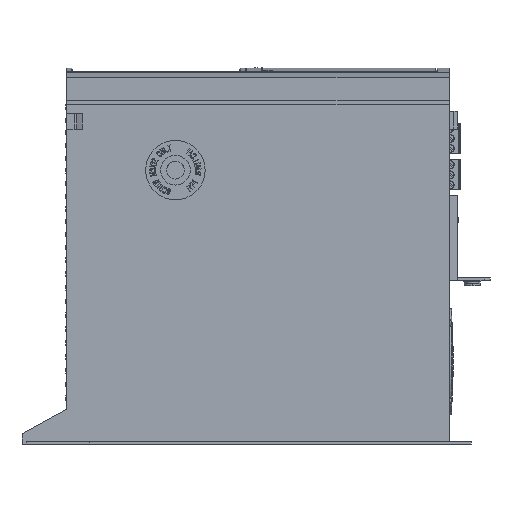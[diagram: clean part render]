
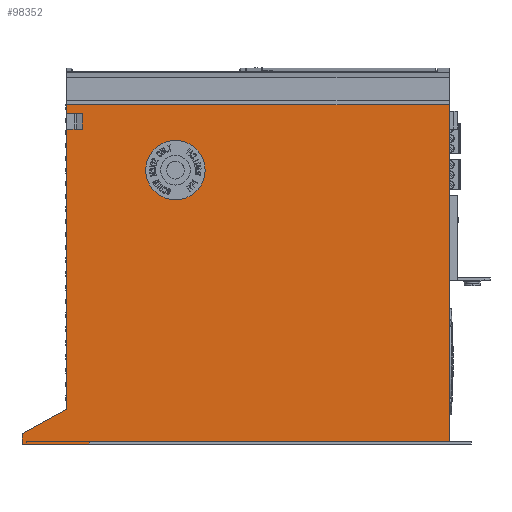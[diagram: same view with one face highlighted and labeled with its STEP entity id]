
A CAD part, left-side view. The second image highlights one B-rep face of the part: STEP entity #98352.
In plain terms, the highlighted planar face has unit normal (-1, 0, 0).
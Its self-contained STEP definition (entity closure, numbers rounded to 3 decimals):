
#49449=DIRECTION('',(0.,0.,1.));
#49450=VECTOR('',#49449,4.5);
#49451=CARTESIAN_POINT('',(-52.5,0.,-6.1));
#49452=LINE('',#49451,#49450);
#49477=DIRECTION('',(0.,0.,1.));
#49478=VECTOR('',#49477,141.5);
#49479=CARTESIAN_POINT('',(-52.5,0.,-155.6));
#49480=LINE('',#49479,#49478);
#51818=DIRECTION('',(0.,0.,1.));
#51819=VECTOR('',#51818,170.);
#51820=CARTESIAN_POINT('',(-52.5,-193.,-171.6));
#51821=LINE('',#51820,#51819);
#52210=CARTESIAN_POINT('',(-52.5,-54.9,-34.7));
#52211=DIRECTION('',(-1.,0.,0.));
#52212=DIRECTION('',(0.,-1.,0.));
#52213=AXIS2_PLACEMENT_3D('',#52210,#52211,#52212);
#52218=CARTESIAN_POINT('',(-52.5,-54.9,-34.7));
#52219=DIRECTION('',(-1.,0.,0.));
#52220=DIRECTION('',(0.,1.,0.));
#52221=AXIS2_PLACEMENT_3D('',#52218,#52219,#52220);
#52258=DIRECTION('',(0.,1.,0.));
#52259=VECTOR('',#52258,193.);
#52260=CARTESIAN_POINT('',(-52.5,-193.,-1.6));
#52261=LINE('',#52260,#52259);
#52265=DIRECTION('',(0.,0.,1.));
#52266=VECTOR('',#52265,1.5);
#52267=CARTESIAN_POINT('',(-52.5,-11.5,-173.1));
#52268=LINE('',#52267,#52266);
#52272=DIRECTION('',(0.,1.,0.));
#52273=VECTOR('',#52272,34.);
#52274=CARTESIAN_POINT('',(-52.5,-11.5,-173.1));
#52275=LINE('',#52274,#52273);
#52279=DIRECTION('',(0.,0.878,-0.479));
#52280=VECTOR('',#52279,25.06);
#52281=CARTESIAN_POINT('',(-52.5,0.5,-155.6));
#52282=LINE('',#52281,#52280);
#52286=DIRECTION('',(0.,1.,0.));
#52287=VECTOR('',#52286,0.5);
#52288=CARTESIAN_POINT('',(-52.5,0.,-155.6));
#52289=LINE('',#52288,#52287);
#52293=DIRECTION('',(0.,1.,0.));
#52294=VECTOR('',#52293,8.);
#52295=CARTESIAN_POINT('',(-52.5,-8.,-14.1));
#52296=LINE('',#52295,#52294);
#52300=DIRECTION('',(0.,0.,1.));
#52301=VECTOR('',#52300,8.);
#52302=CARTESIAN_POINT('',(-52.5,-8.,-14.1));
#52303=LINE('',#52302,#52301);
#52307=DIRECTION('',(0.,1.,0.));
#52308=VECTOR('',#52307,8.);
#52309=CARTESIAN_POINT('',(-52.5,-8.,-6.1));
#52310=LINE('',#52309,#52308);
#63320=DIRECTION('',(0.,-1.,0.));
#63321=VECTOR('',#63320,181.5);
#63322=CARTESIAN_POINT('',(-52.5,-11.5,-171.6));
#63323=LINE('',#63322,#63321);
#64560=DIRECTION('',(0.,0.,-1.));
#64561=VECTOR('',#64560,5.5);
#64562=CARTESIAN_POINT('',(-52.5,22.5,-167.6));
#64563=LINE('',#64562,#64561);
#89526=CARTESIAN_POINT('',(-52.5,22.5,-173.1));
#89528=VERTEX_POINT('',#89526);
#91450=CARTESIAN_POINT('',(-52.5,-11.5,-173.1));
#91451=CARTESIAN_POINT('',(-52.5,-11.5,-171.6));
#91452=VERTEX_POINT('',#91450);
#91453=VERTEX_POINT('',#91451);
#92668=CARTESIAN_POINT('',(-52.5,-69.9,-34.7));
#92669=CARTESIAN_POINT('',(-52.5,-39.9,-34.7));
#92670=VERTEX_POINT('',#92668);
#92671=VERTEX_POINT('',#92669);
#92778=CARTESIAN_POINT('',(-52.5,-193.,-171.6));
#92780=VERTEX_POINT('',#92778);
#92916=CARTESIAN_POINT('',(-52.5,0.,-6.1));
#92918=VERTEX_POINT('',#92916);
#92924=CARTESIAN_POINT('',(-52.5,0.,-14.1));
#92926=VERTEX_POINT('',#92924);
#92936=CARTESIAN_POINT('',(-52.5,-8.,-6.1));
#92937=VERTEX_POINT('',#92936);
#92938=CARTESIAN_POINT('',(-52.5,-8.,-14.1));
#92939=VERTEX_POINT('',#92938);
#92990=CARTESIAN_POINT('',(-52.5,0.5,-155.6));
#92991=CARTESIAN_POINT('',(-52.5,22.5,-167.6));
#92992=VERTEX_POINT('',#92990);
#92993=VERTEX_POINT('',#92991);
#93004=CARTESIAN_POINT('',(-52.5,0.,-155.6));
#93005=VERTEX_POINT('',#93004);
#94480=CARTESIAN_POINT('',(-52.5,0.,-1.6));
#94481=VERTEX_POINT('',#94480);
#94488=CARTESIAN_POINT('',(-52.5,-193.,-1.6));
#94489=VERTEX_POINT('',#94488);
#98317=CARTESIAN_POINT('',(-52.5,0.,-173.1));
#98318=DIRECTION('',(-1.,0.,0.));
#98319=DIRECTION('',(0.,0.,1.));
#98320=AXIS2_PLACEMENT_3D('',#98317,#98318,#98319);
#98321=PLANE('',#98320);
#98323=ORIENTED_EDGE('',*,*,#98322,.F.);
#98324=ORIENTED_EDGE('',*,*,#97894,.F.);
#98326=ORIENTED_EDGE('',*,*,#98325,.F.);
#98328=ORIENTED_EDGE('',*,*,#98327,.F.);
#98330=ORIENTED_EDGE('',*,*,#98329,.T.);
#98332=ORIENTED_EDGE('',*,*,#98331,.F.);
#98334=ORIENTED_EDGE('',*,*,#98333,.F.);
#98336=ORIENTED_EDGE('',*,*,#98335,.F.);
#98337=ORIENTED_EDGE('',*,*,#96725,.T.);
#98339=ORIENTED_EDGE('',*,*,#98338,.F.);
#98341=ORIENTED_EDGE('',*,*,#98340,.T.);
#98342=ORIENTED_EDGE('',*,*,#98264,.T.);
#98343=ORIENTED_EDGE('',*,*,#96717,.T.);
#98344=EDGE_LOOP('',(#98323,#98324,#98326,#98328,#98330,#98332,#98334,#98336,
#98337,#98339,#98341,#98342,#98343));
#98345=FACE_OUTER_BOUND('',#98344,.F.);
#98347=ORIENTED_EDGE('',*,*,#98346,.T.);
#98349=ORIENTED_EDGE('',*,*,#98348,.T.);
#98350=EDGE_LOOP('',(#98347,#98349));
#98351=FACE_BOUND('',#98350,.F.);
#98352=ADVANCED_FACE('',(#98345,#98351),#98321,.T.);
#52214=CIRCLE('',#52213,15.);
#52222=CIRCLE('',#52221,15.);
#96717=EDGE_CURVE('',#92918,#94481,#49452,.T.);
#96725=EDGE_CURVE('',#93005,#92926,#49480,.T.);
#97894=EDGE_CURVE('',#92780,#94489,#51821,.T.);
#98264=EDGE_CURVE('',#92937,#92918,#52310,.T.);
#98322=EDGE_CURVE('',#94489,#94481,#52261,.T.);
#98325=EDGE_CURVE('',#91453,#92780,#63323,.T.);
#98327=EDGE_CURVE('',#91452,#91453,#52268,.T.);
#98329=EDGE_CURVE('',#91452,#89528,#52275,.T.);
#98331=EDGE_CURVE('',#92993,#89528,#64563,.T.);
#98333=EDGE_CURVE('',#92992,#92993,#52282,.T.);
#98335=EDGE_CURVE('',#93005,#92992,#52289,.T.);
#98338=EDGE_CURVE('',#92939,#92926,#52296,.T.);
#98340=EDGE_CURVE('',#92939,#92937,#52303,.T.);
#98346=EDGE_CURVE('',#92670,#92671,#52214,.T.);
#98348=EDGE_CURVE('',#92671,#92670,#52222,.T.);
